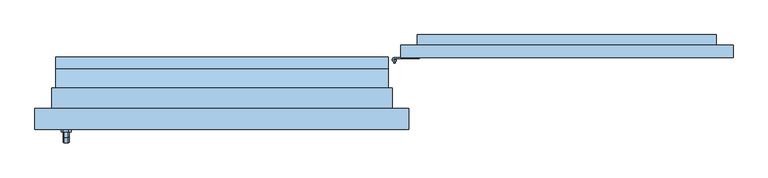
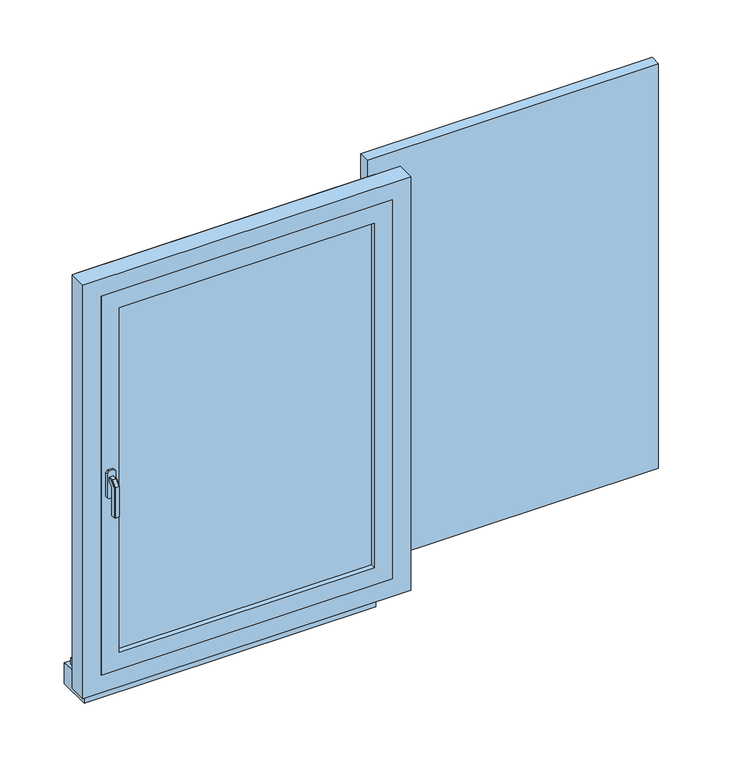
"""IFC4 building model written with IfcOpenShell, lengths in millimetres: window geometry, 1 Vantail droit - Volet et petits bois : 0.80m x 1.15m - Appui Béton."""

import ifcopenshell
import ifcopenshell.guid

model = None  # the IFC model being written
_history = None  # IfcOwnerHistory: only IFC2X3 demands one
_inside = {}  # id of a spatial element -> (the spatial element, [elements in it])
_under = {}  # id of a project, library or spatial element -> (it, [spatial elements below it])
_declared = {}  # id of a project -> (the project, [libraries it declares])
_typed = {}  # id of a type object -> (the type object, [elements of that type])
_made_of = {}  # id of a material, layer set ... -> (it, [elements and type objects made of it])


def new_model(schema):
    """Start an empty IFC model of exactly this schema.

    Asked for "IFC4X3", IfcOpenShell would pick the latest addendum, in which some entities
    have other attributes; the version numbers below select the first issue.
    IFC2X3 requires an IfcOwnerHistory on every rooted entity: one is made here for all.
    """
    global model, _history
    if schema == "IFC4X3":
        model = ifcopenshell.file(schema_version=(4, 3, 0, 0))
    else:
        model = ifcopenshell.file(schema=schema)
    _inside.clear()
    _under.clear()
    _declared.clear()
    _typed.clear()
    _made_of.clear()
    _history = None
    if model.schema == "IFC2X3":
        org = make("IfcOrganization", Name="unknown")
        user = make(
            "IfcPersonAndOrganization",
            ThePerson=make("IfcPerson", FamilyName="unknown"),
            TheOrganization=org,
        )
        app = make(
            "IfcApplication",
            ApplicationDeveloper=org,
            Version="unknown",
            ApplicationFullName="unknown",
            ApplicationIdentifier="unknown",
        )
        _history = make(
            "IfcOwnerHistory",
            OwningUser=user,
            OwningApplication=app,
            ChangeAction="ADDED",
            CreationDate=0,
        )
    return model


def make(cls, **values):
    """One entity of the class cls with the attributes given. An attribute that is None is left unset."""
    return model.create_entity(
        cls, **{name: value for name, value in values.items() if value is not None}
    )


def rooted(cls, **values):
    """An entity with a GlobalId (a new one), such as an element, a storey or a relation."""
    return make(cls, GlobalId=ifcopenshell.guid.new(), OwnerHistory=_history, **values)


def si_unit(unit_type, name, prefix=None):
    """IfcSIUnit, for example si_unit("LENGTHUNIT", "METRE", prefix="MILLI")."""
    return make("IfcSIUnit", UnitType=unit_type, Prefix=prefix, Name=name)


def assignment(units):
    """IfcUnitAssignment: the units of a project."""
    return None if units is None else make("IfcUnitAssignment", Units=units)


def point(xyz):
    """IfcCartesianPoint."""
    return None if xyz is None else make("IfcCartesianPoint", Coordinates=xyz)


def direction(xyz):
    """IfcDirection."""
    return None if xyz is None else make("IfcDirection", DirectionRatios=xyz)


def frame(location, z_axis=None, x_axis=None):
    """IfcAxis2Placement3D, a coordinate frame: its origin and axes. An axis left out is left unset."""
    return make(
        "IfcAxis2Placement3D",
        Location=point(location),
        Axis=direction(z_axis),
        RefDirection=direction(x_axis),
    )


def frame_2d(location, x_axis=None):
    """IfcAxis2Placement2D, a coordinate frame in the plane: its origin and x axis."""
    return make(
        "IfcAxis2Placement2D", Location=point(location), RefDirection=direction(x_axis)
    )


def origin():
    """The frame at (0, 0, 0) with its axes left unset."""
    return frame((0.0, 0.0, 0.0))


def place(relative_to, where):
    """IfcLocalPlacement: puts the frame where relative to a parent placement (None: the world)."""
    return make(
        "IfcLocalPlacement", PlacementRelTo=relative_to, RelativePlacement=where
    )


def context(
    kind, dimensions, precision=None, world=None, true_north=None, identifier=None
):
    """IfcGeometricRepresentationContext, for example the 3D "Model" context."""
    return make(
        "IfcGeometricRepresentationContext",
        ContextIdentifier=identifier,
        ContextType=kind,
        CoordinateSpaceDimension=dimensions,
        Precision=precision,
        WorldCoordinateSystem=world,
        TrueNorth=true_north,
    )


def project(units=None, contexts=None):
    """IfcProject with its units and contexts."""
    return rooted(
        "IfcProject",
        Name="project",
        RepresentationContexts=contexts,
        UnitsInContext=assignment(units),
    )


def spatial(cls, under=None, at=None, **own):
    """A site, building, storey or space (cls), placed at a placement, below another one or the project."""
    s = rooted(cls, ObjectPlacement=at, **own)
    if under is not None:
        _under.setdefault(under.id(), (under, []))[1].append(s)
    return s


def polyline(points):
    """IfcPolyline through the points."""
    return make("IfcPolyline", Points=[point(p) for p in points])


def circle_curve(where, radius):
    """IfcCircle in the frame where."""
    return make("IfcCircle", Position=where, Radius=radius)


def trimmed(basis, trim1, trim2, sense, master):
    """IfcTrimmedCurve: the piece of a basis curve between two trims."""
    return make(
        "IfcTrimmedCurve",
        BasisCurve=basis,
        Trim1=trim1,
        Trim2=trim2,
        SenseAgreement=sense,
        MasterRepresentation=master,
    )


def segment(curve, same_sense, transition):
    """IfcCompositeCurveSegment."""
    return make(
        "IfcCompositeCurveSegment",
        Transition=transition,
        SameSense=same_sense,
        ParentCurve=curve,
    )


def composite_curve(segments, self_intersect=None):
    """IfcCompositeCurve: segments joined end to end."""
    return make("IfcCompositeCurve", Segments=segments, SelfIntersect=self_intersect)


def outline(outer, holes=None, kind="AREA"):
    """IfcArbitraryClosedProfileDef: a profile drawn as a closed curve; with holes, ...WithVoids."""
    if holes is None:
        return make("IfcArbitraryClosedProfileDef", ProfileType=kind, OuterCurve=outer)
    return make(
        "IfcArbitraryProfileDefWithVoids",
        ProfileType=kind,
        OuterCurve=outer,
        InnerCurves=holes,
    )


def extrude(swept, where, along, depth):
    """IfcExtrudedAreaSolid: the profile swept, set in the frame where, extruded along a direction by depth."""
    return make(
        "IfcExtrudedAreaSolid",
        SweptArea=swept,
        Position=where,
        ExtrudedDirection=direction(along),
        Depth=depth,
    )


def faces_of(points, faces, orient=None, outer=None):
    """IfcFace entities. A face is a list of loops; a loop is a list of indices into points, from 0.

    orient and outer hold one flag for each loop. By default every Orientation is true, the
    first loop of a face is its IfcFaceOuterBound and the others are IfcFaceBound.
    """
    made = []
    for i, loops in enumerate(faces):
        bounds = []
        for j, loop in enumerate(loops):
            is_outer = j == 0 if outer is None else outer[i][j]
            bounds.append(
                make(
                    "IfcFaceOuterBound" if is_outer else "IfcFaceBound",
                    Bound=make("IfcPolyLoop", Polygon=[points[k] for k in loop]),
                    Orientation=True if orient is None else orient[i][j],
                )
            )
        made.append(make("IfcFace", Bounds=bounds))
    return made


def faceted_brep(points, faces, orient=None, outer=None, voids=None):
    """IfcFacetedBrep: a solid bounded by flat faces; with voids (closed shells), ...WithVoids."""
    shared = [point(p) for p in points]
    hull = make("IfcClosedShell", CfsFaces=faces_of(shared, faces, orient, outer))
    if voids is None:
        return make("IfcFacetedBrep", Outer=hull)
    return make(
        "IfcFacetedBrepWithVoids",
        Outer=hull,
        Voids=[
            make(cls, CfsFaces=faces_of(shared, fs, o, b)) for cls, fs, o, b in voids
        ],
    )


def shape(context_of_items, identifier, shape_type, items):
    """IfcShapeRepresentation: the items that make up one representation, for example the "Body"."""
    return make(
        "IfcShapeRepresentation",
        ContextOfItems=context_of_items,
        RepresentationIdentifier=identifier,
        RepresentationType=shape_type,
        Items=items,
    )


def source(mapping_origin, context_of_items, identifier, shape_type, items):
    """IfcRepresentationMap: a shape defined once, which mapped items show again and again."""
    return make(
        "IfcRepresentationMap",
        MappingOrigin=mapping_origin,
        MappedRepresentation=shape(context_of_items, identifier, shape_type, items),
    )


def transform(
    local_origin,
    x_axis=None,
    y_axis=None,
    z_axis=None,
    scale=None,
    scale2=None,
    scale3=None,
    uniform=True,
):
    """IfcCartesianTransformationOperator3D, or its non-uniform kind. x_axis, y_axis, z_axis: its Axis1, 2, 3."""
    if uniform:
        return make(
            "IfcCartesianTransformationOperator3D",
            Axis1=direction(x_axis),
            Axis2=direction(y_axis),
            LocalOrigin=point(local_origin),
            Scale=scale,
            Axis3=direction(z_axis),
        )
    return make(
        "IfcCartesianTransformationOperator3DnonUniform",
        Axis1=direction(x_axis),
        Axis2=direction(y_axis),
        LocalOrigin=point(local_origin),
        Scale=scale,
        Axis3=direction(z_axis),
        Scale2=scale2,
        Scale3=scale3,
    )


def mapped(mapping_source, mapping_target):
    """IfcMappedItem: shows the shape of a source again, moved by a transform."""
    return make(
        "IfcMappedItem", MappingSource=mapping_source, MappingTarget=mapping_target
    )


def made_of(thing, what):
    """Note that an element or type object is made of a material, layer set ...; save() writes the relation."""
    if what is not None:
        _made_of.setdefault(what.id(), (what, []))[1].append(thing)
    return thing


def element(
    cls,
    number,
    at=None,
    inside=None,
    cuts=None,
    type_object=None,
    material=None,
    context=None,
    identifier="Body",
    shape_type=None,
    held_by="IfcProductDefinitionShape",
    body=None,
    shapes=None,
    **own,
):
    """One element of the class cls, such as IfcWall. Its Tag is "e" and its number.

    at: its placement. inside: the storey or other place that contains it. cuts: it is an
    opening in that element (IfcRelVoidsElement). A single representation is given by context,
    identifier, shape_type and body (its items); several are given by shapes. held_by: the class
    of the entity that holds the representations. save() writes the other relations.
    """
    e = rooted(cls, Tag="e%d" % number, ObjectPlacement=at, **own)
    if body is not None:
        shapes = [shape(context, identifier, shape_type, body)]
    if shapes is not None:
        e.Representation = make(held_by, Representations=shapes)
    if inside is not None:
        _inside.setdefault(inside.id(), (inside, []))[1].append(e)
    if cuts is not None:
        rooted(
            "IfcRelVoidsElement", RelatingBuildingElement=cuts, RelatedOpeningElement=e
        )
    if type_object is not None:
        _typed.setdefault(type_object.id(), (type_object, []))[1].append(e)
    return made_of(e, material)


def aggregate(whole, parts):
    """IfcRelAggregates: a whole, such as a stair, and the parts it consists of."""
    return rooted("IfcRelAggregates", RelatingObject=whole, RelatedObjects=parts)


def save(model, path):
    """Write the relations noted so far, then the file.

    IfcRelAggregates (storeys below a building ...), IfcRelContainedInSpatialStructure (elements
    in a storey), IfcRelDefinesByType, IfcRelAssociatesMaterial and IfcRelDeclares: one each for
    every whole, place, type object, material and project.
    """
    for whole, parts in _under.values():
        aggregate(whole, parts)
    for where, things in _inside.values():
        rooted(
            "IfcRelContainedInSpatialStructure",
            RelatedElements=things,
            RelatingStructure=where,
        )
    for kind, things in _typed.values():
        rooted("IfcRelDefinesByType", RelatedObjects=things, RelatingType=kind)
    for what, things in _made_of.values():
        rooted("IfcRelAssociatesMaterial", RelatedObjects=things, RelatingMaterial=what)
    for by, libraries in _declared.values():
        rooted("IfcRelDeclares", RelatingContext=by, RelatedDefinitions=libraries)
    model.write(path)


def plane_surface(at):
    """IfcPlane: the flat surface through the origin of the frame at, square to its z axis."""
    return make("IfcPlane", Position=at)


def cylinder_surface(at, radius):
    """IfcCylindricalSurface: all points at the distance radius from the z axis of the frame at."""
    return make("IfcCylindricalSurface", Position=at, Radius=radius)


def advanced_brep(points, edges, surfaces, faces):
    """IfcAdvancedBrep: a solid bounded by faces that lie on surfaces and meet in shared edges.

    An edge is (start, end): straight between two places in points (the first is 0);
    or (start, end, curve); or (start, end, curve, False) where it runs against its curve.
    A face is (place in surfaces, loops), or (place, loops, False) where it looks against
    its surface's normal. A loop lists edges by number (the first is 1), with a minus sign
    where the edge is run from its end to its start. The first loop is the outer one.
    """
    corners = [point(p) for p in points]
    vertices = [make("IfcVertexPoint", VertexGeometry=c) for c in corners]
    made = []
    for start, end, *more in edges:
        made.append(
            make(
                "IfcEdgeCurve",
                EdgeStart=vertices[start],
                EdgeEnd=vertices[end],
                EdgeGeometry=more[0] if more else make("IfcPolyline", Points=[corners[start], corners[end]]),
                SameSense=more[1] if len(more) > 1 else True,
            )
        )
    hull = []
    for where, loops, *sense in faces:
        bounds = []
        for j, loop in enumerate(loops):
            ring = [make("IfcOrientedEdge", EdgeElement=made[abs(k) - 1], Orientation=k > 0) for k in loop]
            bounds.append(
                make(
                    "IfcFaceOuterBound" if j == 0 else "IfcFaceBound",
                    Bound=make("IfcEdgeLoop", EdgeList=ring),
                    Orientation=True,
                )
            )
        hull.append(make("IfcAdvancedFace", Bounds=bounds, FaceSurface=surfaces[where], SameSense=sense[0] if sense else True))
    return make("IfcAdvancedBrep", Outer=make("IfcClosedShell", CfsFaces=hull))


def window_2b853f76(model_context):
    return source(origin(), model_context, "Body", "SolidModel", [
        extrude(outline(polyline([(1230.0, 93.0), (430.0, 93.0), (430.0, 123.0), (1230.0, 123.0), (1230.0, 93.0)])), frame((0.0, 0.0, 775.0), z_axis=(0.0, 0.0, 1.0), x_axis=(1.0, 0.0, 0.0)), (0.0, 0.0, 1.0), 1175.0),
        advanced_brep(
        [(410.0, 88.0, 975.0), (420.0, 88.0, 975.0), (410.0, 88.0, 950.0), (420.0, 88.0, 950.0), (417.0, 83.4174243, 955.0), (413.0, 83.4174243, 955.0), (413.0, 83.4174243, 965.0), (417.0, 83.4174243, 965.0), (413.0, 80.0, 965.0), (417.0, 80.0, 965.0), (417.0, 80.0, 955.0), (413.0, 80.0, 955.0)],
        [
            (0, 1, circle_curve(frame((415.0, 88.0, 975.0), z_axis=(0.0, 0.0, 1.0), x_axis=(1.0, 0.0, 0.0)), 5.0)),
            (1, 0, circle_curve(frame((415.0, 88.0, 975.0), z_axis=(0.0, 0.0, 1.0), x_axis=(1.0, 0.0, 0.0)), 5.0)),
            (2, 3, circle_curve(frame((415.0, 88.0, 950.0), z_axis=(0.0, 0.0, -1.0), x_axis=(1.0, 0.0, 0.0)), 5.0)),
            (3, 2, circle_curve(frame((415.0, 88.0, 950.0), z_axis=(0.0, 0.0, -1.0), x_axis=(1.0, 0.0, 0.0)), 5.0)),
            (0, 2),
            (3, 1),
            (4, 5, circle_curve(frame((415.0, 88.0, 955.0), z_axis=(0.0, 0.0, -1.0), x_axis=(1.0, 0.0, 0.0)), 5.0)),
            (5, 6),
            (6, 7, circle_curve(frame((415.0, 88.0, 965.0), z_axis=(0.0, 0.0, 1.0), x_axis=(1.0, 0.0, 0.0)), 5.0)),
            (7, 4),
            (8, 9),
            (9, 7),
            (6, 8),
            (10, 11),
            (11, 5),
            (4, 10),
            (9, 10),
            (11, 8),
        ],
        [
            plane_surface(frame((420.0, 88.0, 975.0), z_axis=(0.0, 0.0, 1.0), x_axis=(0.0, 1.0, 0.0))),
            plane_surface(frame((420.0, 88.0, 950.0), z_axis=(0.0, 0.0, -1.0), x_axis=(0.0, -1.0, 0.0))),
            cylinder_surface(frame((415.0, 88.0, 950.0), z_axis=(0.0, 0.0, 1.0), x_axis=(1.0, 0.0, 0.0)), 5.0),
            plane_surface(frame((417.0, 80.0, 965.0), z_axis=(0.0, 0.0, 1.0), x_axis=(0.0, 1.0, 0.0))),
            plane_surface(frame((417.0, 80.0, 955.0), z_axis=(0.0, 0.0, -1.0), x_axis=(0.0, -1.0, 0.0))),
            plane_surface(frame((417.0, 80.0, 965.0), z_axis=(1.0, 0.0, 0.0), x_axis=(0.0, 0.0, -1.0))),
            plane_surface(frame((413.0, 85.0, 965.0), z_axis=(-1.0, 0.0, 0.0), x_axis=(0.0, 0.0, -1.0))),
            plane_surface(frame((413.0, 80.0, 965.0), z_axis=(0.0, -1.0, 0.0), x_axis=(0.0, 0.0, -1.0))),
        ],
        [
            (0, [[1, 2]]),
            (1, [[3, 4]]),
            (2, [[-1, 5, -4, 6], [7, 8, 9, 10]]),
            (2, [[-2, -6, -3, -5]]),
            (3, [[11, 12, -9, 13]]),
            (4, [[14, 15, -7, 16]]),
            (5, [[17, -16, -10, -12]]),
            (6, [[18, -13, -8, -15]]),
            (7, [[-11, -18, -14, -17]]),
        ],
    ),
        extrude(outline(composite_curve([segment(polyline([(415.0, 93.0), (474.3092325, 93.0), (474.3092325, 90.5), (415.0, 90.5)]), True, "CONTINUOUS"), segment(trimmed(circle_curve(frame_2d((415.0, 88.0)), 2.5), [point((415.0, 90.5))], [point((417.5, 88.0))], True, "CARTESIAN"), True, "CONTINUOUS"), segment(polyline([(417.5, 88.0), (420.0, 88.0)]), True, "CONTINUOUS"), segment(trimmed(circle_curve(frame_2d((415.0, 88.0)), 5.0), [point((420.0, 88.0))], [point((415.0, 93.0))], False, "CARTESIAN"), True, "CONTINUOUS")], self_intersect=False)), frame((0.0, 0.0, 975.0), z_axis=(0.0, 0.0, 1.0), x_axis=(1.0, 0.0, 0.0)), (0.0, 0.0, 1.0), 25.0),
        extrude(outline(composite_curve([segment(trimmed(circle_curve(frame_2d((415.0, 88.0)), 2.5), [point((412.5, 88.0))], [point((417.5, 88.0))], False, "CARTESIAN"), True, "CONTINUOUS"), segment(trimmed(circle_curve(frame_2d((415.0, 88.0)), 2.5), [point((417.5, 88.0))], [point((412.5, 88.0))], False, "CARTESIAN"), True, "CONTINUOUS")], self_intersect=False)), frame((0.0, 0.0, 975.0), z_axis=(0.0, 0.0, 1.0), x_axis=(1.0, 0.0, 0.0)), (0.0, 0.0, 1.0), 25.0),
        advanced_brep(
        [(410.0, 88.0, 1750.0), (420.0, 88.0, 1750.0), (410.0, 88.0, 1725.0), (420.0, 88.0, 1725.0), (413.0, 83.4174243, 1740.0), (417.0, 83.4174243, 1740.0), (417.0, 83.4174243, 1730.0), (413.0, 83.4174243, 1730.0), (413.0, 80.0, 1740.0), (417.0, 80.0, 1740.0), (413.0, 80.0, 1730.0), (417.0, 80.0, 1730.0)],
        [
            (0, 1, circle_curve(frame((415.0, 88.0, 1750.0), z_axis=(0.0, 0.0, 1.0), x_axis=(1.0, 0.0, 0.0)), 5.0)),
            (1, 0, circle_curve(frame((415.0, 88.0, 1750.0), z_axis=(0.0, 0.0, 1.0), x_axis=(1.0, 0.0, 0.0)), 5.0)),
            (2, 3, circle_curve(frame((415.0, 88.0, 1725.0), z_axis=(0.0, 0.0, -1.0), x_axis=(1.0, 0.0, 0.0)), 5.0)),
            (3, 2, circle_curve(frame((415.0, 88.0, 1725.0), z_axis=(0.0, 0.0, -1.0), x_axis=(1.0, 0.0, 0.0)), 5.0)),
            (0, 2),
            (3, 1),
            (4, 5, circle_curve(frame((415.0, 88.0, 1740.0), z_axis=(0.0, 0.0, 1.0), x_axis=(1.0, 0.0, 0.0)), 5.0)),
            (5, 6),
            (6, 7, circle_curve(frame((415.0, 88.0, 1730.0), z_axis=(0.0, 0.0, -1.0), x_axis=(1.0, 0.0, 0.0)), 5.0)),
            (7, 4),
            (8, 9),
            (9, 5),
            (4, 8),
            (10, 7),
            (6, 11),
            (11, 10),
            (8, 10),
            (11, 9),
        ],
        [
            plane_surface(frame((420.0, 88.0, 1750.0), z_axis=(0.0, 0.0, 1.0), x_axis=(0.0, 1.0, 0.0))),
            plane_surface(frame((420.0, 88.0, 1725.0), z_axis=(0.0, 0.0, -1.0), x_axis=(0.0, -1.0, 0.0))),
            cylinder_surface(frame((415.0, 88.0, 1725.0), z_axis=(0.0, 0.0, 1.0), x_axis=(1.0, 0.0, 0.0)), 5.0),
            plane_surface(frame((413.0, 80.0, 1740.0), z_axis=(0.0, 0.0, 1.0), x_axis=(1.0, 0.0, 0.0))),
            plane_surface(frame((413.0, 80.0, 1730.0), z_axis=(0.0, 0.0, -1.0), x_axis=(-1.0, 0.0, 0.0))),
            plane_surface(frame((413.0, 80.0, 1740.0), z_axis=(0.0, -1.0, 0.0), x_axis=(0.0, 0.0, -1.0))),
            plane_surface(frame((417.0, 80.0, 1740.0), z_axis=(1.0, 0.0, 0.0), x_axis=(0.0, 0.0, -1.0))),
            plane_surface(frame((413.0, 83.4174243, 1740.0), z_axis=(-1.0, 0.0, 0.0), x_axis=(0.0, 0.0, -1.0))),
        ],
        [
            (0, [[1, 2]]),
            (1, [[3, 4]]),
            (2, [[-1, 5, -4, 6], [7, 8, 9, 10]]),
            (2, [[-2, -6, -3, -5]]),
            (3, [[11, 12, -7, 13]]),
            (4, [[14, -9, 15, 16]]),
            (5, [[-11, 17, -16, 18]]),
            (6, [[-12, -18, -15, -8]]),
            (7, [[-13, -10, -14, -17]]),
        ],
    ),
        extrude(outline(composite_curve([segment(polyline([(415.0, 93.0), (474.3092325, 93.0), (474.3092325, 90.5), (415.0, 90.5)]), True, "CONTINUOUS"), segment(trimmed(circle_curve(frame_2d((415.0, 88.0)), 2.5), [point((415.0, 90.5))], [point((417.5, 88.0))], True, "CARTESIAN"), True, "CONTINUOUS"), segment(polyline([(417.5, 88.0), (420.0, 88.0)]), True, "CONTINUOUS"), segment(trimmed(circle_curve(frame_2d((415.0, 88.0)), 5.0), [point((420.0, 88.0))], [point((415.0, 93.0))], False, "CARTESIAN"), True, "CONTINUOUS")], self_intersect=False)), frame((0.0, 0.0, 1750.0), z_axis=(0.0, 0.0, 1.0), x_axis=(1.0, 0.0, 0.0)), (0.0, 0.0, 1.0), 25.0),
        extrude(outline(composite_curve([segment(trimmed(circle_curve(frame_2d((415.0, 88.0)), 2.5), [point((412.5, 88.0))], [point((417.5, 88.0))], False, "CARTESIAN"), True, "CONTINUOUS"), segment(trimmed(circle_curve(frame_2d((415.0, 88.0)), 2.5), [point((417.5, 88.0))], [point((412.5, 88.0))], False, "CARTESIAN"), True, "CONTINUOUS")], self_intersect=False)), frame((0.0, 0.0, 1750.0), z_axis=(0.0, 0.0, 1.0), x_axis=(1.0, 0.0, 0.0)), (0.0, 0.0, 1.0), 25.0),
        extrude(outline(polyline([(1710.0, 1190.0), (1710.0, 1083.3050132), (1015.0, 470.0007252), (1015.0, 576.695712), (1710.0, 1190.0)])), frame((0.0, 123.0, 0.0), z_axis=(0.0, 1.0, 0.0), x_axis=(0.0, 0.0, 1.0)), (0.0, 0.0, 1.0), 25.0),
        extrude(outline(polyline([(470.0, 148.0), (1190.0, 148.0), (1190.0, 123.0), (470.0, 123.0), (470.0, 148.0)])), frame((0.0, 0.0, 1710.0), z_axis=(0.0, 0.0, 1.0), x_axis=(1.0, 0.0, 0.0)), (0.0, 0.0, 1.0), 80.0),
        extrude(outline(polyline([(470.0, 148.0), (1190.0, 148.0), (1190.0, 123.0), (470.0, 123.0), (470.0, 148.0)])), frame((0.0, 0.0, 935.0), z_axis=(0.0, 0.0, 1.0), x_axis=(1.0, 0.0, 0.0)), (0.0, 0.0, 1.0), 80.0),
        faceted_brep([(-369.3539903, -86.0, 1422.0339292), (-367.9660708, -86.0, 1420.6460097), (-367.9660708, -86.0, 1409.3323012), (-369.3323012, -86.0, 1407.9660708), (-380.6676988, -86.0, 1407.9660708), (-382.0339292, -86.0, 1409.3323012), (-382.0339292, -86.0, 1420.6460097), (-380.6460097, -86.0, 1422.0339292), (-369.3539903, -98.9135489, 1422.0339292), (-367.9660708, -98.3386538, 1420.6460097), (-367.9660708, -111.6460097, 1407.3386538), (-367.9660708, -111.6460097, 1320.0), (-367.9660708, -100.3323012, 1320.0), (-367.9660708, -100.3323012, 1402.6523623), (-367.9660708, -93.6523623, 1409.3323012), (-369.3323012, -93.0864511, 1407.9660708), (-380.6676988, -93.0864511, 1407.9660708), (-382.0339292, -93.6523623, 1409.3323012), (-382.0339292, -100.3323012, 1402.6523623), (-382.0339292, -100.3323012, 1320.0), (-382.0339292, -111.6460097, 1320.0), (-382.0339292, -111.6460097, 1407.3386538), (-382.0339292, -98.3386538, 1420.6460097), (-380.6460097, -98.9135489, 1422.0339292), (-369.3539903, -113.0339292, 1407.9135489), (-369.3323012, -98.9660708, 1402.0864511), (-380.6676988, -98.9660708, 1402.0864511), (-380.6460097, -113.0339292, 1407.9135489), (-369.3539903, -113.0339292, 1320.0), (-380.6460097, -113.0339292, 1320.0), (-380.6676988, -98.9660708, 1320.0), (-369.3323012, -98.9660708, 1320.0)], [[[0, 1, 2, 3, 4, 5, 6, 7]], [[1, 0, 8, 9]], [[2, 1, 9, 10, 11, 12, 13, 14]], [[3, 2, 14, 15]], [[4, 3, 15, 16]], [[5, 4, 16, 17]], [[6, 5, 17, 18, 19, 20, 21, 22]], [[7, 6, 22, 23]], [[0, 7, 23, 8]], [[9, 8, 24, 10]], [[15, 14, 13, 25]], [[16, 15, 25, 26]], [[17, 16, 26, 18]], [[23, 22, 21, 27]], [[8, 23, 27, 24]], [[28, 29, 20, 19, 30, 31, 12, 11]], [[10, 24, 28, 11]], [[25, 13, 12, 31]], [[26, 25, 31, 30]], [[18, 26, 30, 19]], [[27, 21, 20, 29]], [[24, 27, 29, 28]]]),
        extrude(outline(polyline([(1440.0, -368.0), (1440.0, -382.0), (1435.0, -387.0), (1365.0, -387.0), (1360.0, -382.0), (1360.0, -368.0), (1365.0, -363.0), (1435.0, -363.0), (1440.0, -368.0)])), frame((0.0, -86.0, 0.0), z_axis=(0.0, 1.0, 0.0), x_axis=(0.0, 0.0, 1.0)), (0.0, 0.0, 1.0), 6.0),
        extrude(outline(polyline([(0.0, 800.0), (50.0, 800.0), (50.0, 785.0), (95.0, 780.2703094), (95.0, 720.0), (0.0, 720.0), (0.0, 800.0)])), frame((-400.0, 0.0, 0.0), z_axis=(1.0, 0.0, 0.0), x_axis=(0.0, 1.0, 0.0)), (0.0, 0.0, 1.0), 800.0),
        extrude(outline(polyline([(-350.0, -54.0), (350.0, -54.0), (350.0, -66.0), (-350.0, -66.0), (-350.0, -54.0)])), frame((0.0, 0.0, 900.0), z_axis=(0.0, 0.0, 1.0), x_axis=(1.0, 0.0, 0.0)), (0.0, 0.0, 1.0), 1000.0),
        extrude(outline(polyline([(850.0, 400.0), (1950.0, 400.0), (1950.0, -400.0), (850.0, -400.0), (850.0, 400.0)]), holes=[polyline([(900.0, -350.0), (1900.0, -350.0), (1900.0, 350.0), (900.0, 350.0), (900.0, -350.0)])]), frame((0.0, -80.0, 0.0), z_axis=(0.0, 1.0, 0.0), x_axis=(0.0, 0.0, 1.0)), (0.0, 0.0, 1.0), 40.0),
        faceted_brep([(-450.0, -80.0, 800.0), (-450.0, -30.0, 800.0), (-400.0, -30.0, 800.0), (-400.0, 55.0, 800.0), (400.0, 55.0, 800.0), (400.0, -30.0, 800.0), (450.0, -30.0, 800.0), (450.0, -80.0, 800.0), (-450.0, -80.0, 2000.0), (-450.0, -30.0, 2000.0), (450.0, -30.0, 2000.0), (400.0, -30.0, 839.3761425), (-400.0, -30.0, 839.3761425), (-385.0, -30.0, 1935.0), (-385.0, -30.0, 865.0), (385.0, -30.0, 865.0), (385.0, -30.0, 1935.0), (-400.0, 65.0, 813.9209692), (-400.0, 65.0, 795.0), (-400.0, 55.0, 795.0), (400.0, 55.0, 795.0), (400.0, 65.0, 795.0), (400.0, 65.0, 813.9209692), (450.0, -80.0, 2000.0), (400.0, -80.0, 1950.0), (400.0, -80.0, 850.0), (-400.0, -80.0, 850.0), (-400.0, -80.0, 1950.0), (-385.0, -40.0, 1935.0), (-385.0, -40.0, 865.0), (385.0, -40.0, 865.0), (385.0, -40.0, 1935.0), (400.0, -40.0, 1950.0), (-400.0, -40.0, 1950.0), (-400.0, -40.0, 850.0), (400.0, -40.0, 850.0)], [[[0, 1, 2, 3, 4, 5, 6, 7]], [[1, 0, 8, 9]], [[1, 9, 10, 6, 5, 11, 12, 2], [13, 14, 15, 16]], [[12, 17, 18, 19, 3, 2]], [[3, 19, 20, 4]], [[4, 20, 21, 22, 11, 5]], [[6, 10, 23, 7]], [[0, 7, 23, 8], [24, 25, 26, 27]], [[13, 28, 29, 14]], [[29, 30, 15, 14]], [[31, 16, 15, 30]], [[17, 12, 11, 22]], [[32, 33, 34, 35], [28, 31, 30, 29]], [[34, 33, 27, 26]], [[26, 25, 35, 34]], [[24, 32, 35, 25]], [[18, 17, 22, 21]], [[19, 18, 21, 20]], [[13, 16, 31, 28]], [[33, 32, 24, 27]], [[10, 9, 8, 23]]]),
        extrude(outline(polyline([(800.0, -410.0), (800.0, -400.0), (1950.0, -400.0), (1950.0, 400.0), (800.0, 400.0), (800.0, 410.0), (1960.0, 410.0), (1960.0, -410.0), (800.0, -410.0)])), frame((0.0, -30.0, 0.0), z_axis=(0.0, 1.0, 0.0), x_axis=(0.0, 0.0, 1.0)), (0.0, 0.0, 1.0), 50.0),
    ])


if __name__ == "__main__":
    model = new_model("IFC4")
    model_context = context("Model", 3, world=origin())
    ifc_project = project(units=[si_unit("LENGTHUNIT", "METRE", prefix="MILLI")], contexts=[model_context])
    site = spatial("IfcSite", under=ifc_project)
    building = spatial("IfcBuilding", under=site)
    placement = place(None, origin())
    window_shape = window_2b853f76(model_context)
    element("IfcWindow", 1, ObjectType="1 Vantail droit - Volet et petits bois : 0.80m x 1.15m - Appui Béton", at=placement, inside=building, context=model_context, shape_type="MappedRepresentation", body=[
        mapped(window_shape, transform((0.0, 0.0, 0.0), x_axis=(1.0, 0.0, 0.0), y_axis=(0.0, 1.0, 0.0), z_axis=(0.0, 0.0, 1.0))),
    ])
    save(model, "model.ifc")
